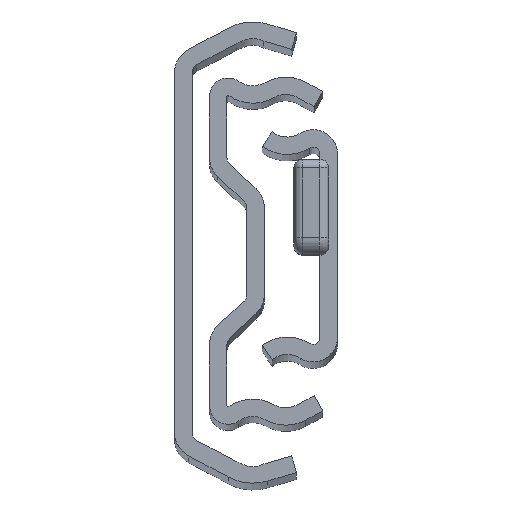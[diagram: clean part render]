
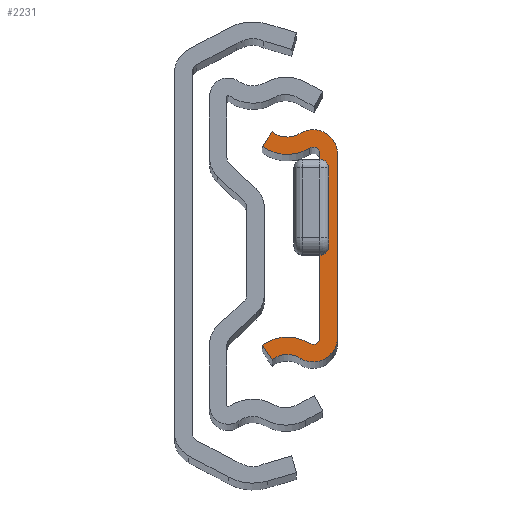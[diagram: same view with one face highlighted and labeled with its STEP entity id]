
A CAD part, top view. The second image highlights one B-rep face of the part: STEP entity #2231.
In plain terms, the highlighted planar face has unit normal (0, 0, 1).
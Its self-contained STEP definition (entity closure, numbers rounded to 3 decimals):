
#758 = CARTESIAN_POINT ( 'NONE',  ( -1.47, 15.294, 0. ) ) ;
#888 = LINE ( 'NONE', #28279, #31427 ) ;
#1208 = CARTESIAN_POINT ( 'NONE',  ( 1.506, 10.55, 0. ) ) ;
#1346 = VERTEX_POINT ( 'NONE', #21038 ) ;
#1397 = CARTESIAN_POINT ( 'NONE',  ( 1.506, 10.55, 0. ) ) ;
#1434 = DIRECTION ( 'NONE',  ( 0., 0., -1. ) ) ;
#1934 = ORIENTED_EDGE ( 'NONE', *, *, #12342, .T. ) ;
#2129 = VERTEX_POINT ( 'NONE', #27762 ) ;
#2231 = ADVANCED_FACE ( 'Face2', ( #33519 ), #23047, .T. ) ;
#3034 = AXIS2_PLACEMENT_3D ( 'NONE', #1208, #11649, #26937 ) ;
#3225 = EDGE_CURVE ( 'NONE', #18944, #16607, #29928, .T. ) ;
#3491 = DIRECTION ( 'NONE',  ( -1., 0., 0. ) ) ;
#3543 = DIRECTION ( 'NONE',  ( 0., 0., -1. ) ) ;
#3557 = CARTESIAN_POINT ( 'NONE',  ( -4.306, 11.422, 0. ) ) ;
#3861 = CARTESIAN_POINT ( 'NONE',  ( -3.194, 13.089, 0. ) ) ;
#4197 = VERTEX_POINT ( 'NONE', #33709 ) ;
#5172 = DIRECTION ( 'NONE',  ( 0., 0., 1. ) ) ;
#6002 = DIRECTION ( 'NONE',  ( 0., 0., 1. ) ) ;
#6500 = ORIENTED_EDGE ( 'NONE', *, *, #28542, .T. ) ;
#6733 = VECTOR ( 'NONE', #31673, 1000. ) ;
#6855 = EDGE_CURVE ( 'NONE', #31590, #21351, #11337, .T. ) ;
#6930 = ORIENTED_EDGE ( 'NONE', *, *, #16424, .T. ) ;
#7163 = ORIENTED_EDGE ( 'NONE', *, *, #6855, .T. ) ;
#7201 = DIRECTION ( 'NONE',  ( 1., 0., 0. ) ) ;
#7483 = DIRECTION ( 'NONE',  ( 1., 0., 0. ) ) ;
#7645 = CARTESIAN_POINT ( 'NONE',  ( 0.018, 12.922, 0. ) ) ;
#8075 = CIRCLE ( 'NONE', #17187, 4.8 ) ;
#8076 = CARTESIAN_POINT ( 'NONE',  ( 2.306, 10.55, 0. ) ) ;
#9281 = DIRECTION ( 'NONE',  ( 1., 0., 0. ) ) ;
#9392 = CARTESIAN_POINT ( 'NONE',  ( -4.306, -11.422, 0. ) ) ;
#9536 = AXIS2_PLACEMENT_3D ( 'NONE', #20708, #5172, #15264 ) ;
#9576 = DIRECTION ( 'NONE',  ( 0., 0., -1. ) ) ;
#10306 = DIRECTION ( 'NONE',  ( 0., 0., 1. ) ) ;
#10687 = ORIENTED_EDGE ( 'NONE', *, *, #15869, .T. ) ;
#11337 = CIRCLE ( 'NONE', #9536, 4.8 ) ;
#11649 = DIRECTION ( 'NONE',  ( 0., 0., 1. ) ) ;
#12127 = CARTESIAN_POINT ( 'NONE',  ( -4.306, 11.422, 0. ) ) ;
#12342 = EDGE_CURVE ( 'NONE', #2129, #4197, #33394, .T. ) ;
#12604 = VERTEX_POINT ( 'NONE', #28625 ) ;
#12919 = CARTESIAN_POINT ( 'NONE',  ( 1.081, 11.228, 0. ) ) ;
#13265 = EDGE_CURVE ( 'NONE', #4197, #33066, #33367, .T. ) ;
#13836 = VERTEX_POINT ( 'NONE', #22162 ) ;
#13918 = DIRECTION ( 'NONE',  ( 0., 0., -1. ) ) ;
#14823 = CARTESIAN_POINT ( 'NONE',  ( 0.018, -12.922, 0. ) ) ;
#15149 = DIRECTION ( 'NONE',  ( 0., 1., 0. ) ) ;
#15264 = DIRECTION ( 'NONE',  ( -1., 0., 0. ) ) ;
#15603 = CIRCLE ( 'NONE', #29594, 2.8 ) ;
#15869 = EDGE_CURVE ( 'NONE', #16607, #31590, #20517, .T. ) ;
#15919 = ORIENTED_EDGE ( 'NONE', *, *, #18415, .T. ) ;
#16145 = ORIENTED_EDGE ( 'NONE', *, *, #13265, .T. ) ;
#16387 = AXIS2_PLACEMENT_3D ( 'NONE', #32108, #3543, #21679 ) ;
#16424 = EDGE_CURVE ( 'NONE', #33066, #29729, #15603, .T. ) ;
#16592 = EDGE_CURVE ( 'NONE', #1346, #13836, #18437, .T. ) ;
#16607 = VERTEX_POINT ( 'NONE', #3861 ) ;
#16731 = CARTESIAN_POINT ( 'NONE',  ( 2.306, -10.55, 0. ) ) ;
#17002 = CARTESIAN_POINT ( 'NONE',  ( 1.506, -10.55, 0. ) ) ;
#17187 = AXIS2_PLACEMENT_3D ( 'NONE', #33623, #33184, #7201 ) ;
#17723 = DIRECTION ( 'NONE',  ( -1., 0., 0. ) ) ;
#17763 = ORIENTED_EDGE ( 'NONE', *, *, #30250, .T. ) ;
#18415 = EDGE_CURVE ( 'NONE', #29729, #12604, #888, .T. ) ;
#18437 = CIRCLE ( 'NONE', #32007, 0.8 ) ;
#18653 = VECTOR ( 'NONE', #24378, 1000. ) ;
#18944 = VERTEX_POINT ( 'NONE', #7645 ) ;
#20390 = EDGE_CURVE ( 'NONE', #32761, #1346, #28470, .T. ) ;
#20517 = LINE ( 'NONE', #3557, #6733 ) ;
#20708 = CARTESIAN_POINT ( 'NONE',  ( -1.47, 15.294, 0. ) ) ;
#20744 = CARTESIAN_POINT ( 'NONE',  ( -1.47, -15.294, 0. ) ) ;
#20834 = CARTESIAN_POINT ( 'NONE',  ( 4.306, -10.55, 0. ) ) ;
#21038 = CARTESIAN_POINT ( 'NONE',  ( 2.306, -10.55, 0. ) ) ;
#21351 = VERTEX_POINT ( 'NONE', #12919 ) ;
#21679 = DIRECTION ( 'NONE',  ( 1., 0., 0. ) ) ;
#21879 = DIRECTION ( 'NONE',  ( 1., 0., 0. ) ) ;
#22162 = CARTESIAN_POINT ( 'NONE',  ( 1.081, -11.228, 0. ) ) ;
#22434 = ORIENTED_EDGE ( 'NONE', *, *, #16592, .T. ) ;
#22912 = AXIS2_PLACEMENT_3D ( 'NONE', #20744, #10306, #7483 ) ;
#23036 = ORIENTED_EDGE ( 'NONE', *, *, #32495, .T. ) ;
#23047 = PLANE ( 'NONE',  #22912 ) ;
#23565 = VECTOR ( 'NONE', #32763, 1000. ) ;
#24378 = DIRECTION ( 'NONE',  ( 0., -1., 0. ) ) ;
#24503 = CIRCLE ( 'NONE', #3034, 2.8 ) ;
#25736 = ORIENTED_EDGE ( 'NONE', *, *, #20390, .T. ) ;
#25771 = EDGE_LOOP ( 'NONE', ( #16145, #6930, #15919, #6500, #31717, #10687, #7163, #23036, #25736, #22434, #17763, #1934 ) ) ;
#26937 = DIRECTION ( 'NONE',  ( -1., 0., 0. ) ) ;
#27762 = CARTESIAN_POINT ( 'NONE',  ( -4.306, -11.422, 0. ) ) ;
#28279 = CARTESIAN_POINT ( 'NONE',  ( 4.306, -10.55, 0. ) ) ;
#28470 = LINE ( 'NONE', #16731, #18653 ) ;
#28542 = EDGE_CURVE ( 'NONE', #12604, #18944, #24503, .T. ) ;
#28625 = CARTESIAN_POINT ( 'NONE',  ( 4.306, 10.55, 0. ) ) ;
#28644 = AXIS2_PLACEMENT_3D ( 'NONE', #758, #13918, #3491 ) ;
#29521 = CIRCLE ( 'NONE', #30595, 0.8 ) ;
#29594 = AXIS2_PLACEMENT_3D ( 'NONE', #32084, #6002, #21879 ) ;
#29729 = VERTEX_POINT ( 'NONE', #20834 ) ;
#29928 = CIRCLE ( 'NONE', #28644, 2.8 ) ;
#30250 = EDGE_CURVE ( 'NONE', #13836, #2129, #8075, .T. ) ;
#30595 = AXIS2_PLACEMENT_3D ( 'NONE', #1397, #9576, #17723 ) ;
#31427 = VECTOR ( 'NONE', #15149, 1000. ) ;
#31590 = VERTEX_POINT ( 'NONE', #12127 ) ;
#31673 = DIRECTION ( 'NONE',  ( -0.555, -0.832, 0. ) ) ;
#31717 = ORIENTED_EDGE ( 'NONE', *, *, #3225, .T. ) ;
#32007 = AXIS2_PLACEMENT_3D ( 'NONE', #17002, #1434, #9281 ) ;
#32084 = CARTESIAN_POINT ( 'NONE',  ( 1.506, -10.55, 0. ) ) ;
#32108 = CARTESIAN_POINT ( 'NONE',  ( -1.47, -15.294, 0. ) ) ;
#32495 = EDGE_CURVE ( 'NONE', #21351, #32761, #29521, .T. ) ;
#32761 = VERTEX_POINT ( 'NONE', #8076 ) ;
#32763 = DIRECTION ( 'NONE',  ( 0.555, -0.832, 0. ) ) ;
#33066 = VERTEX_POINT ( 'NONE', #14823 ) ;
#33184 = DIRECTION ( 'NONE',  ( 0., 0., 1. ) ) ;
#33367 = CIRCLE ( 'NONE', #16387, 2.8 ) ;
#33394 = LINE ( 'NONE', #9392, #23565 ) ;
#33519 = FACE_OUTER_BOUND ( 'NONE', #25771, .T. ) ;
#33623 = CARTESIAN_POINT ( 'NONE',  ( -1.47, -15.294, 0. ) ) ;
#33709 = CARTESIAN_POINT ( 'NONE',  ( -3.194, -13.089, 0. ) ) ;
